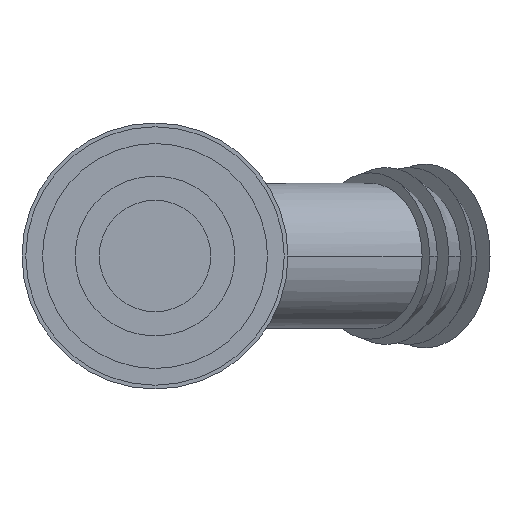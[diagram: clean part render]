
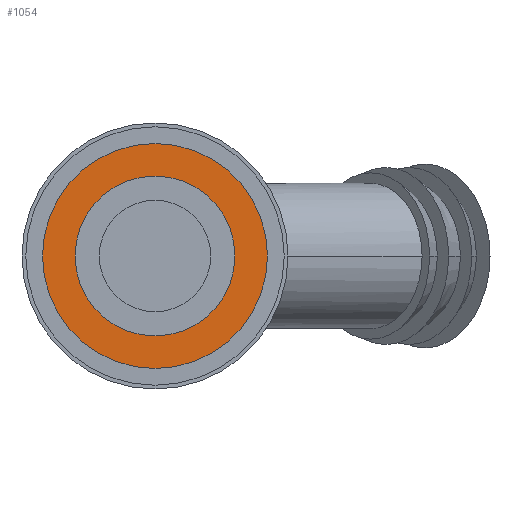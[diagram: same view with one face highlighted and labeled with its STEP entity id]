
A CAD part, left-side view. The second image highlights one B-rep face of the part: STEP entity #1054.
In plain terms, the highlighted planar face has unit normal (-1, 0, 0).
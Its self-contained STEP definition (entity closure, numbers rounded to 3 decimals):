
#113 = CARTESIAN_POINT ( 'NONE',  ( 0., 0., 6.8 ) ) ;
#169 = VERTEX_POINT ( 'NONE', #864 ) ;
#227 = CARTESIAN_POINT ( 'NONE',  ( 0., 0., 0. ) ) ;
#232 = CIRCLE ( 'NONE', #907, 6.8 ) ;
#236 = DIRECTION ( 'NONE',  ( -1., 0., 0. ) ) ;
#240 = DIRECTION ( 'NONE',  ( 0., 0., 1. ) ) ;
#271 = CIRCLE ( 'NONE', #1237, 9.573 ) ;
#273 = CARTESIAN_POINT ( 'NONE',  ( 0., 6.8, 0. ) ) ;
#301 = EDGE_CURVE ( 'NONE', #169, #394, #232, .T. ) ;
#331 = EDGE_CURVE ( 'NONE', #1554, #498, #271, .T. ) ;
#333 = DIRECTION ( 'NONE',  ( -1., 0., 0. ) ) ;
#384 = CARTESIAN_POINT ( 'NONE',  ( 0., 0., 9.573 ) ) ;
#394 = VERTEX_POINT ( 'NONE', #113 ) ;
#406 = PLANE ( 'NONE',  #434 ) ;
#415 = AXIS2_PLACEMENT_3D ( 'NONE', #1345, #1579, #1643 ) ;
#434 = AXIS2_PLACEMENT_3D ( 'NONE', #273, #1046, #925 ) ;
#451 = ORIENTED_EDGE ( 'NONE', *, *, #858, .F. ) ;
#498 = VERTEX_POINT ( 'NONE', #384 ) ;
#557 = CIRCLE ( 'NONE', #415, 9.573 ) ;
#627 = ORIENTED_EDGE ( 'NONE', *, *, #331, .T. ) ;
#724 = EDGE_LOOP ( 'NONE', ( #451, #1144 ) ) ;
#805 = EDGE_LOOP ( 'NONE', ( #1367, #627 ) ) ;
#850 = CARTESIAN_POINT ( 'NONE',  ( 0., 0., 0. ) ) ;
#858 = EDGE_CURVE ( 'NONE', #394, #169, #1351, .T. ) ;
#864 = CARTESIAN_POINT ( 'NONE',  ( 0., 0., -6.8 ) ) ;
#907 = AXIS2_PLACEMENT_3D ( 'NONE', #1236, #333, #1108 ) ;
#925 = DIRECTION ( 'NONE',  ( 0., 0., -1. ) ) ;
#936 = FACE_BOUND ( 'NONE', #724, .T. ) ;
#985 = DIRECTION ( 'NONE',  ( -1., 0., 0. ) ) ;
#995 = DIRECTION ( 'NONE',  ( 0., 0., 1. ) ) ;
#1046 = DIRECTION ( 'NONE',  ( 1., 0., 0. ) ) ;
#1054 = ADVANCED_FACE ( 'NONE', ( #936, #1275 ), #406, .F. ) ;
#1085 = EDGE_CURVE ( 'NONE', #498, #1554, #557, .T. ) ;
#1108 = DIRECTION ( 'NONE',  ( 0., 0., 1. ) ) ;
#1144 = ORIENTED_EDGE ( 'NONE', *, *, #301, .F. ) ;
#1236 = CARTESIAN_POINT ( 'NONE',  ( 0., 0., 0. ) ) ;
#1237 = AXIS2_PLACEMENT_3D ( 'NONE', #850, #985, #995 ) ;
#1275 = FACE_OUTER_BOUND ( 'NONE', #805, .T. ) ;
#1345 = CARTESIAN_POINT ( 'NONE',  ( 0., 0., 0. ) ) ;
#1351 = CIRCLE ( 'NONE', #1589, 6.8 ) ;
#1367 = ORIENTED_EDGE ( 'NONE', *, *, #1085, .T. ) ;
#1393 = CARTESIAN_POINT ( 'NONE',  ( 0., 0., -9.573 ) ) ;
#1554 = VERTEX_POINT ( 'NONE', #1393 ) ;
#1579 = DIRECTION ( 'NONE',  ( -1., 0., 0. ) ) ;
#1589 = AXIS2_PLACEMENT_3D ( 'NONE', #227, #236, #240 ) ;
#1643 = DIRECTION ( 'NONE',  ( 0., 0., 1. ) ) ;
